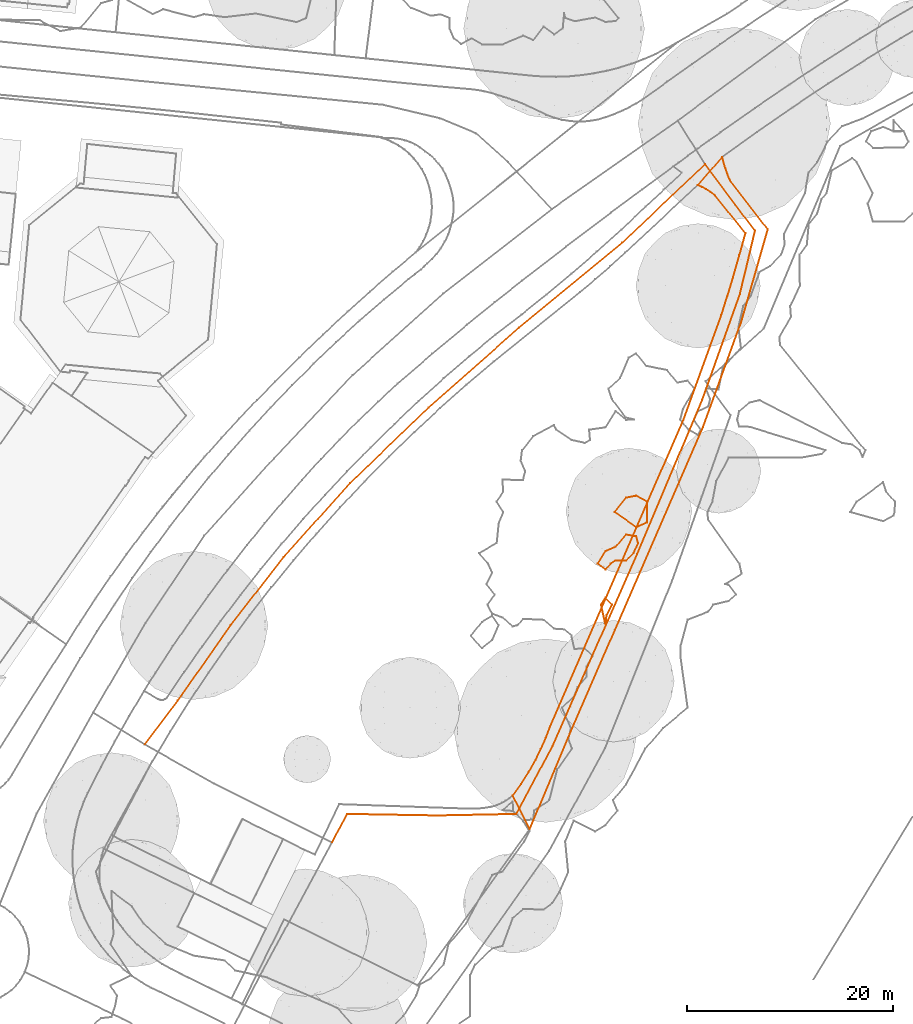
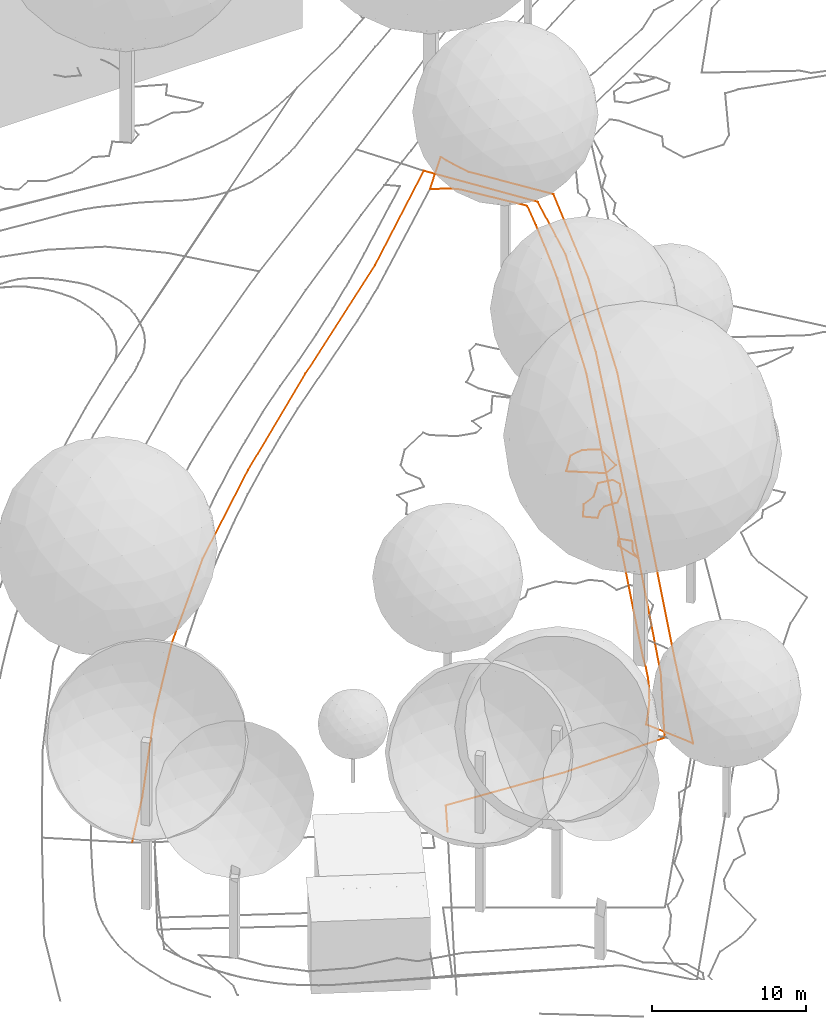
# Not in any storey, part 196 of 494: 6 proxies.
"""IFC2X3 model written with IfcOpenShell, lengths in metres."""

from ifc_helpers import new_model, entity, si_unit, frame, origin_with_axes, place, context, subcontext, project, element, save


model = new_model("IFC2X3")

# Units and contexts
model_context = context("Model", 3, precision=1e-05, world=origin_with_axes())
body_context = subcontext(model_context, "Body", "Model", "MODEL_VIEW")
ifc_project = project(units=[si_unit("AREAUNIT", "SQUARE_METRE"), si_unit("LENGTHUNIT", "METRE")], contexts=[model_context])

# Proxies
proxy_1_placement = place(None, frame((600.8927320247, 209.5847367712, 502.176), z_axis=(0.0, 0.0, 1.0), x_axis=(1.0, 0.0, 0.0)))
element("IfcBuildingElementProxy", 1, at=proxy_1_placement, Name="Road 129", ObjectType="NOTDEFINED", context=body_context, shape_type="GeometricCurveSet", body=[
    entity("IfcGeometricCurveSet", [entity("IfcPolyline", [entity("IfcCartesianPoint", [0.0, 0.0, 0.0]), entity("IfcCartesianPoint", [3.2309999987, 4.2569998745, -0.043]), entity("IfcCartesianPoint", [8.370000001, 11.5999996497, 0.15]), entity("IfcCartesianPoint", [13.5100000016, 18.2089994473, 0.112]), entity("IfcCartesianPoint", [19.9710000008, 25.4039992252, 0.183]), entity("IfcCartesianPoint", [27.6079999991, 32.7459990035, 0.07]), entity("IfcCartesianPoint", [36.4180000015, 40.5289987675, -0.073]), entity("IfcCartesianPoint", [46.4030000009, 48.7509985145, 0.082]), entity("IfcCartesianPoint", [54.4800000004, 56.3869982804, 0.119])])]),
])
proxy_2_placement = place(None, frame((619.1017320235, 200.0397370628, 502.43), z_axis=(0.0, 0.0, 1.0), x_axis=(1.0, 0.0, 0.0)))
element("IfcBuildingElementProxy", 2, at=proxy_2_placement, Name="Road 131", ObjectType="NOTDEFINED", context=body_context, shape_type="GeometricCurveSet", body=[
    entity("IfcGeometricCurveSet", [entity("IfcPolyline", [entity("IfcCartesianPoint", [0.0, 0.0, 0.0]), entity("IfcCartesianPoint", [1.4690000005, 2.7899999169, -0.082]), entity("IfcCartesianPoint", [10.2790000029, 2.6419999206, -0.46]), entity("IfcCartesianPoint", [17.9150000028, 2.7899999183, -0.467]), entity("IfcCartesianPoint", [21.4400000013, 9.3969997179, -0.559]), entity("IfcCartesianPoint", [29.6620000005, 28.0469991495, -0.835]), entity("IfcCartesianPoint", [35.9770000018, 43.0249986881, -0.537]), entity("IfcCartesianPoint", [39.6469999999, 53.303998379, -0.322]), entity("IfcCartesianPoint", [41.1160000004, 59.4709981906, -0.387]), entity("IfcCartesianPoint", [36.2710000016, 65.9319979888, -0.135])])]),
])
proxy_3_placement = place(None, frame((636.6747320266, 204.6397160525, 502.0384856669), z_axis=(0.0, 0.0, 1.0), x_axis=(1.0, 0.0, 0.0)))
element("IfcBuildingElementProxy", 3, at=proxy_3_placement, Name="Roads Outline 90", ObjectType="NOTDEFINED", context=body_context, shape_type="GeometricCurveSet", body=[
    entity("IfcGeometricCurveSet", [entity("IfcPolyline", [entity("IfcCartesianPoint", [0.0, 0.0, 0.0]), entity("IfcCartesianPoint", [0.7990000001, 1.1000000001, 0.0522290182]), entity("IfcCartesianPoint", [1.5330000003, 2.243, 0.034232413]), entity("IfcCartesianPoint", [2.2009999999, 3.4269999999, 0.0561121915]), entity("IfcCartesianPoint", [2.73, 4.4890000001, 0.0606973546]), entity("IfcCartesianPoint", [3.2050000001, 5.5759999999, 0.0170026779]), entity("IfcCartesianPoint", [3.625, 6.6850000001, 0.0109895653]), entity("IfcCartesianPoint", [16.5929999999, 36.537, -0.0198465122]), entity("IfcCartesianPoint", [20.2710000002, 46.6639999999, 0.036784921]), entity("IfcCartesianPoint", [20.8450000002, 48.4949999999, 0.077609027]), entity("IfcCartesianPoint", [21.3990000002, 50.3329999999, 0.0950108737]), entity("IfcCartesianPoint", [22.0189999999, 52.4820000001, 0.1361186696]), entity("IfcCartesianPoint", [22.6129999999, 54.639, 0.1591454]), entity("IfcCartesianPoint", [19.6830000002, 58.2930000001, 0.2733731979]), entity("IfcCartesianPoint", [19.2519999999, 58.6129999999, 0.2883275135]), entity("IfcCartesianPoint", [18.798, 58.899, 0.2777882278]), entity("IfcCartesianPoint", [18.398, 59.1159999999, 0.2643000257]), entity("IfcCartesianPoint", [17.9849999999, 59.307, 0.2737658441]), entity("IfcCartesianPoint", [20.3650000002, 62.0379999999, 0.3419292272]), entity("IfcCartesianPoint", [20.5019999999, 61.4809999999, 0.3483789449]), entity("IfcCartesianPoint", [20.6669999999, 60.932, 0.3413834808]), entity("IfcCartesianPoint", [20.8840000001, 60.3259999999, 0.3168591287]), entity("IfcCartesianPoint", [21.1340000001, 59.733, 0.2889542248]), entity("IfcCartesianPoint", [24.7930000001, 55.01, 0.0936904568]), entity("IfcCartesianPoint", [22.1860000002, 45.9679999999, -0.1441511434]), entity("IfcCartesianPoint", [18.486, 35.7819999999, -0.1665508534]), entity("IfcCartesianPoint", [5.5249999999, 5.9439999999, -0.072078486]), entity("IfcCartesianPoint", [1.6410000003, -3.2920000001, -0.0916307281]), entity("IfcCartesianPoint", [0.0, 0.0, 0.0])])]),
])
proxy_4_placement = place(None, frame((646.5674958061, 232.1707160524, 502.0), z_axis=(0.0, 0.0, 1.0), x_axis=(1.0, 0.0, 0.0)))
element("IfcBuildingElementProxy", 4, at=proxy_4_placement, Name="Contour Line 502.0 m", ObjectType="NOTDEFINED", context=body_context, shape_type="GeometricCurveSet", body=[
    entity("IfcGeometricCurveSet", [entity("IfcPolyline", [entity("IfcCartesianPoint", [3.1723189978, -1.0, 0.0]), entity("IfcCartesianPoint", [2.1102362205, -1.474060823, 0.0]), entity("IfcCartesianPoint", [0.0, 0.0, 0.0]), entity("IfcCartesianPoint", [1.1102362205, 1.3989266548, 0.0]), entity("IfcCartesianPoint", [2.1102362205, 1.580532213, 0.0]), entity("IfcCartesianPoint", [3.1819251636, 1.0, 0.0]), entity("IfcCartesianPoint", [3.1723189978, -1.0, 0.0])])]),
])
proxy_5_placement = place(None, frame((644.9363072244, 227.1707160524, 502.0), z_axis=(0.0, 0.0, 1.0), x_axis=(1.0, 0.0, 0.0)))
element("IfcBuildingElementProxy", 5, at=proxy_5_placement, Name="Contour Line 502.0 m", ObjectType="NOTDEFINED", context=body_context, shape_type="GeometricCurveSet", body=[
    entity("IfcGeometricCurveSet", [entity("IfcPolyline", [entity("IfcCartesianPoint", [1.2686293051, 0.0, 0.0]), entity("IfcCartesianPoint", [0.7414248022, -0.6030042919, 0.0]), entity("IfcCartesianPoint", [0.0, 0.0, 0.0]), entity("IfcCartesianPoint", [0.7414248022, 1.196460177, 0.0]), entity("IfcCartesianPoint", [1.7414248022, 1.6274298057, 0.0]), entity("IfcCartesianPoint", [2.7414248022, 2.8089020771, 0.0]), entity("IfcCartesianPoint", [3.7414248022, 2.6440677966, 0.0]), entity("IfcCartesianPoint", [3.9239290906, 2.0, 0.0]), entity("IfcCartesianPoint", [3.4804579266, 1.0, 0.0]), entity("IfcCartesianPoint", [2.7414248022, 0.2777777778, 0.0]), entity("IfcCartesianPoint", [1.7414248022, 0.3025210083, 0.0]), entity("IfcCartesianPoint", [1.2686293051, 0.0, 0.0])])]),
])
proxy_6_placement = place(None, frame((645.2590086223, 223.1707160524, 502.0), z_axis=(0.0, 0.0, 1.0), x_axis=(1.0, 0.0, 0.0)))
element("IfcBuildingElementProxy", 6, at=proxy_6_placement, Name="Contour Line 502.0 m", ObjectType="NOTDEFINED", context=body_context, shape_type="GeometricCurveSet", body=[
    entity("IfcGeometricCurveSet", [entity("IfcPolyline", [entity("IfcCartesianPoint", [0.5417906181, -1.0, 0.0]), entity("IfcCartesianPoint", [0.4187234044, -1.8647450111, 0.0]), entity("IfcCartesianPoint", [0.0, 0.0, 0.0]), entity("IfcCartesianPoint", [0.4187234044, 0.6786206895, 0.0]), entity("IfcCartesianPoint", [1.073414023, 0.0, 0.0]), entity("IfcCartesianPoint", [0.5417906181, -1.0, 0.0])])]),
])

save(model, "model.ifc")
